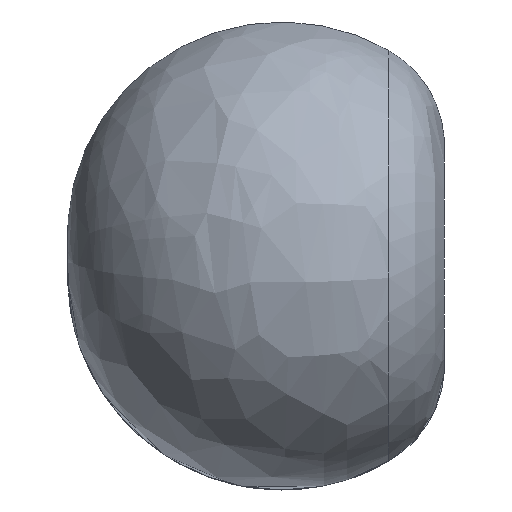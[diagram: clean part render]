
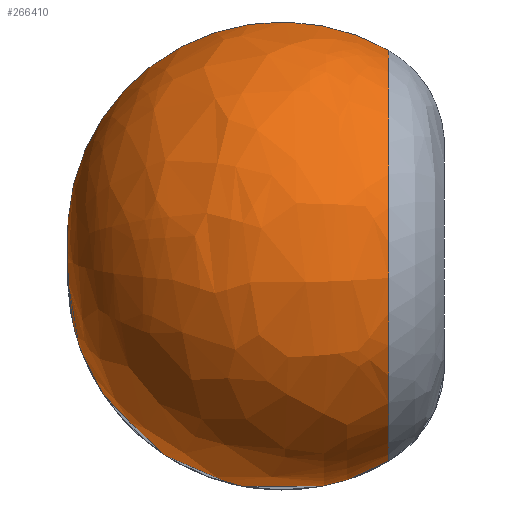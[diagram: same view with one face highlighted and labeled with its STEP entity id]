
A CAD part, left-side view. The second image highlights one B-rep face of the part: STEP entity #266410.
In plain terms, the highlighted free-form (B-spline) face has degree [3, 3] with [7, 4] control points.
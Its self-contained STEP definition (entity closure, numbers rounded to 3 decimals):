
#266260=CARTESIAN_POINT('',(-20.737,537.,147.55));
#266261=DIRECTION('',(-0.99,0.,-0.139));
#266262=DIRECTION('',(-0.121,-0.5,0.858));
#266263=AXIS2_PLACEMENT_3D('',#266260,#266261,#266262);
#266289=CARTESIAN_POINT('',(0.,-222.588,0.));
#266290=DIRECTION('',(0.,-1.,0.));
#266291=DIRECTION('',(-0.139,0.,0.99));
#266292=AXIS2_PLACEMENT_3D('',#266289,#266290,#266291);
#266309=CARTESIAN_POINT('',(20.737,537.,147.55));
#266310=DIRECTION('',(-0.99,0.,0.139));
#266311=DIRECTION('',(0.121,-0.5,0.858));
#266312=AXIS2_PLACEMENT_3D('',#266309,#266310,#266311);
#266334=CARTESIAN_POINT('',(-203.839,-222.588,
1450.392));
#266335=CARTESIAN_POINT('',(0.,2048.852,
0.));
#266336=VERTEX_POINT('',#266334);
#266337=VERTEX_POINT('',#266335);
#266346=CARTESIAN_POINT('',(203.839,-222.588,
1450.392));
#266347=VERTEX_POINT('',#266346);
#266374=CARTESIAN_POINT('',(0.,2048.852,0.));
#266375=CARTESIAN_POINT('',(-28.355,2191.822,
1450.392));
#266376=CARTESIAN_POINT('',(-43.267,949.703,
2213.148));
#266377=CARTESIAN_POINT('',(-27.953,-279.534,
1429.808));
#266378=CARTESIAN_POINT('',(0.,2048.852,
0.));
#266379=CARTESIAN_POINT('',(-2873.387,2191.822,
1394.771));
#266380=CARTESIAN_POINT('',(-4384.493,949.703,
2128.277));
#266381=CARTESIAN_POINT('',(-2832.609,-279.534,
1374.977));
#266382=CARTESIAN_POINT('',(0.,2048.852,
0.));
#266383=CARTESIAN_POINT('',(-2845.576,2191.822,
-1450.669));
#266384=CARTESIAN_POINT('',(-4342.055,949.703,
-2213.571));
#266385=CARTESIAN_POINT('',(-2805.192,-279.534,
-1430.082));
#266386=CARTESIAN_POINT('',(0.,2048.852,0.));
#266387=CARTESIAN_POINT('',(0.,2191.822,
-1450.669));
#266388=CARTESIAN_POINT('',(0.,949.703,
-2213.571));
#266389=CARTESIAN_POINT('',(0.,-279.534,
-1430.082));
#266390=CARTESIAN_POINT('',(0.,2048.852,
0.));
#266391=CARTESIAN_POINT('',(2845.576,2191.822,
-1450.669));
#266392=CARTESIAN_POINT('',(4342.055,949.703,
-2213.571));
#266393=CARTESIAN_POINT('',(2805.192,-279.534,
-1430.082));
#266394=CARTESIAN_POINT('',(0.,2048.852,
0.));
#266395=CARTESIAN_POINT('',(2873.387,2191.822,
1394.771));
#266396=CARTESIAN_POINT('',(4384.493,949.703,
2128.277));
#266397=CARTESIAN_POINT('',(2832.609,-279.534,
1374.977));
#266398=CARTESIAN_POINT('',(0.,2048.852,0.));
#266399=CARTESIAN_POINT('',(28.355,2191.822,
1450.392));
#266400=CARTESIAN_POINT('',(43.267,949.703,
2213.148));
#266401=CARTESIAN_POINT('',(27.953,-279.534,
1429.808));
#266402=(BOUNDED_SURFACE()B_SPLINE_SURFACE(3,3,((#266374,#266375,#266376,
#266377),(#266378,#266379,#266380,#266381),(#266382,#266383,#266384,#266385),(
#266386,#266387,#266388,#266389),(#266390,#266391,#266392,#266393),(#266394,
#266395,#266396,#266397),(#266398,#266399,#266400,#266401)),.UNSPECIFIED.,.F.,
.F.,.F.)B_SPLINE_SURFACE_WITH_KNOTS((4,3,4),(4,4),(0.,1.,2.),(0.,1.),
.UNSPECIFIED.)GEOMETRIC_REPRESENTATION_ITEM()RATIONAL_B_SPLINE_SURFACE(((
2.756,1.722,1.722,2.756),(
0.937,0.585,0.585,0.937),(
0.937,0.585,0.585,0.937),(
2.756,1.722,1.722,2.756),(
0.937,0.585,0.585,0.937),(
0.937,0.585,0.585,0.937),(
2.756,1.722,1.722,2.756)))REPRESENTATION_ITEM('')SURFACE());
#266403=ORIENTED_EDGE('',*,*,#266359,.F.);
#266405=ORIENTED_EDGE('',*,*,#266404,.T.);
#266407=ORIENTED_EDGE('',*,*,#266406,.T.);
#266408=EDGE_LOOP('',(#266403,#266405,#266407));
#266409=FACE_OUTER_BOUND('',#266408,.F.);
#266410=ADVANCED_FACE('',(#266409),#266402,.T.);
#266264=CIRCLE('',#266263,1519.177);
#266293=CIRCLE('',#266292,1464.646);
#266313=CIRCLE('',#266312,1519.177);
#266359=EDGE_CURVE('',#266336,#266337,#266264,.T.);
#266404=EDGE_CURVE('',#266336,#266347,#266293,.T.);
#266406=EDGE_CURVE('',#266347,#266337,#266313,.T.);
